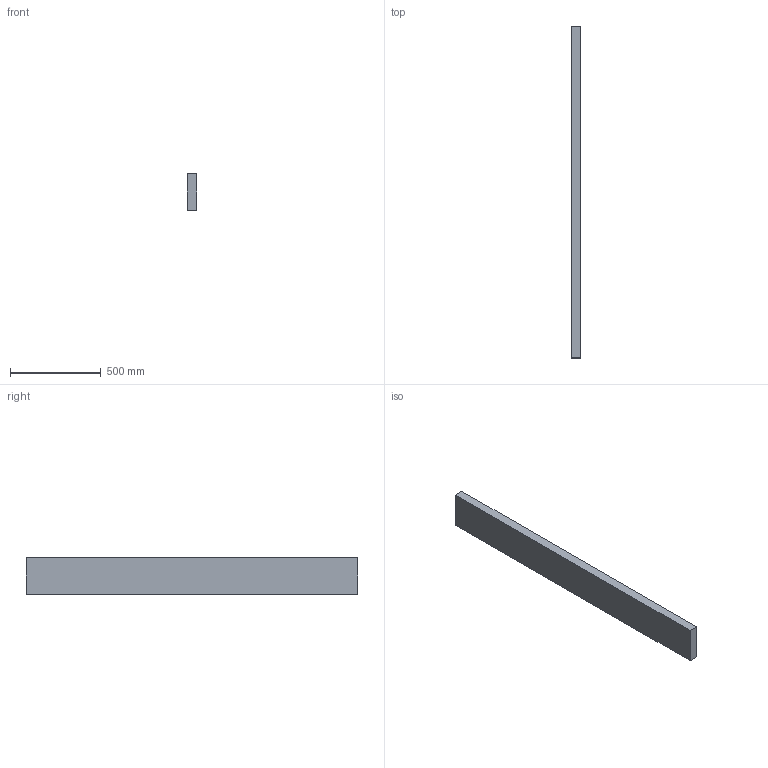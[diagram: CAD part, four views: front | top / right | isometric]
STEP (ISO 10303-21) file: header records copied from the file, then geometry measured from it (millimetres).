
FILE_DESCRIPTION(/* description */ (''),/* implementation_level */ '2;1');
FILE_NAME(/* name */ 'SM_Baffle2x8x72',/* time_stamp */ '2024-10-15T11:57:02-05:00',/* author */ (''),/* organization */ (''),/* preprocessor_version */ 'ST-DEVELOPER v19.2',/* originating_system */ 'Rhino 8.4',/* authorisation */ '');
FILE_SCHEMA (('CONFIG_CONTROL_DESIGN'));
Length unit declared in the file: inch
Products named in the file (1): Document
Bounding box: 50.8 x 1828.8 x 203.2 mm (x, y, z)
Volume: 18877897.7 mm3; surface area: 949675.5 mm2
Topology: 1 solids, 1 shells, 6 faces, 12 edges, 8 vertices
Faces by surface type: plane 6
Entity records: 226 total; most frequent: CARTESIAN_POINT 40, ORIENTED_EDGE 24, EDGE_CURVE 12, B_SPLINE_CURVE_WITH_KNOTS 12, DIRECTION 10, VERTEX_POINT 8, AXIS2_PLACEMENT_3D 8, ORGANIZATION 7
